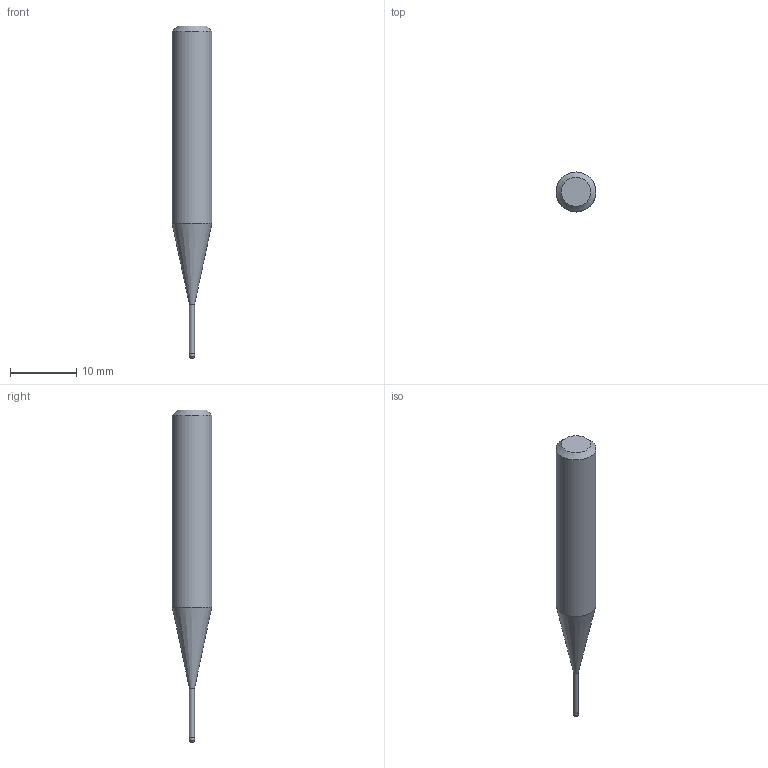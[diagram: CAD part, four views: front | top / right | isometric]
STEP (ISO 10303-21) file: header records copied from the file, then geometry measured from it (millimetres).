
FILE_DESCRIPTION((''),'2;1');
FILE_NAME('C:\Users\nsx150\AppData\Local\Temp\Mastercam 2021\17T8Q8S9EB\TEMP.step','2021-04-21T14:32:40',(''),(''),'STEP Write','Mastercam 2021 ... CNC Software, Inc.','');
FILE_SCHEMA(('AUTOMOTIVE_DESIGN'));
Length unit declared in the file: millimetre
Products named in the file (1): None
Bounding box: 6 x 6 x 50 mm (x, y, z)
Volume: 969.9 mm3; surface area: 732.2 mm2
Topology: 2 solids, 2 shells, 10 faces, 14 edges, 8 vertices
Faces by surface type: plane 4, cylinder 3, cone 2, torus 1
Full cylindrical faces by diameter (mm): 0.76 x1, 0.8 x1, 6 x1
Entity records: 232 total; most frequent: DIRECTION 40, CARTESIAN_POINT 28, AXIS2_PLACEMENT_3D 20, ORIENTED_EDGE 16, EDGE_LOOP 16, STYLED_ITEM 13, ADVANCED_FACE 10, FACE_BOUND 10
